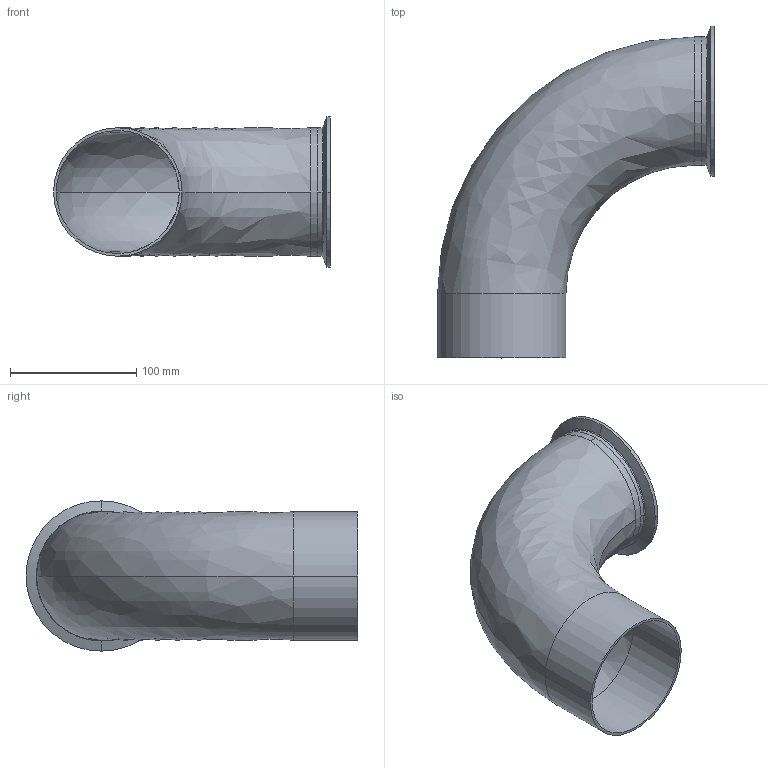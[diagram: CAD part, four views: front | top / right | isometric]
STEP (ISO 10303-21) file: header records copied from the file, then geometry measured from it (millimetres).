
FILE_DESCRIPTION (( 'STEP AP214' ), '1' );
FILE_NAME ('TE2C6L4.0-...STEP', '2016-05-22T09:37:40', ( 'eran' ), ( '' ), 'SwSTEP 2.0', 'SolidWorks 2016', '' );
FILE_SCHEMA (( 'AUTOMOTIVE_DESIGN' ));
Length unit declared in the file: millimetre
Products named in the file (1): TE2C6L4.0-..
Bounding box: 219.1 x 262.66 x 118.92 mm (x, y, z)
Volume: 214559.3 mm3; surface area: 199405.8 mm2
Topology: 2 solids, 2 shells, 39 faces, 98 edges, 64 vertices
Faces by surface type: bspline 14, cylinder 14, cone 6, plane 5
Entity records: 1945 total; most frequent: CARTESIAN_POINT 954, DIRECTION 216, ORIENTED_EDGE 196, AXIS2_PLACEMENT_3D 98, EDGE_CURVE 98, CIRCLE 72, VERTEX_POINT 64, EDGE_LOOP 44
